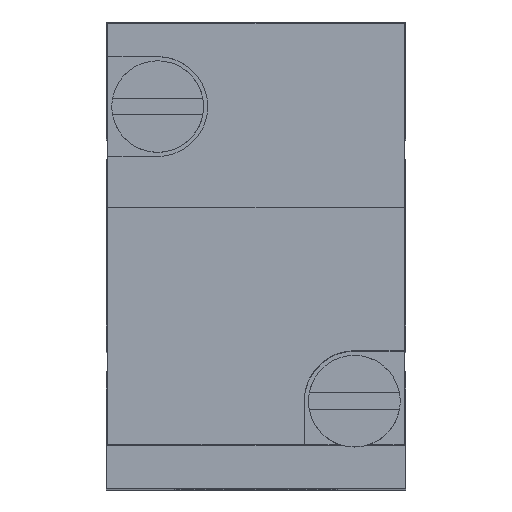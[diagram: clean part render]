
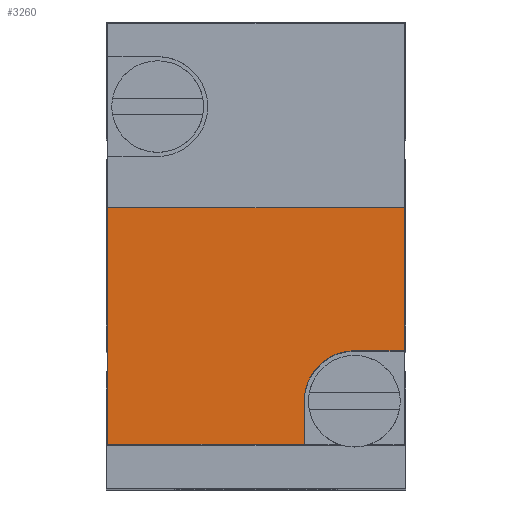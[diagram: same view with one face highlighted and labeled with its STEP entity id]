
A CAD part, top view. The second image highlights one B-rep face of the part: STEP entity #3260.
In plain terms, the highlighted planar face has unit normal (0, 0, 1).
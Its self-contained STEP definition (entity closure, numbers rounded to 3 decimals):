
#749=DIRECTION('',(0.,-1.,0.));
#750=VECTOR('',#749,8.581);
#751=CARTESIAN_POINT('',(8.9,2.8,56.5));
#752=LINE('',#751,#750);
#999=DIRECTION('',(0.,-1.,0.));
#1000=VECTOR('',#999,14.2);
#1001=CARTESIAN_POINT('',(-8.9,2.8,56.5));
#1002=LINE('',#1001,#1000);
#1023=DIRECTION('',(-1.,0.,0.));
#1024=VECTOR('',#1023,3.);
#1025=CARTESIAN_POINT('',(8.9,-5.781,56.5));
#1026=LINE('',#1025,#1024);
#1027=CARTESIAN_POINT('',(5.9,-8.781,56.5));
#1028=DIRECTION('',(0.,0.,1.));
#1029=DIRECTION('',(0.,1.,0.));
#1030=AXIS2_PLACEMENT_3D('',#1027,#1028,#1029);
#1032=DIRECTION('',(0.,1.,0.));
#1033=VECTOR('',#1032,2.619);
#1034=CARTESIAN_POINT('',(2.9,-11.4,56.5));
#1035=LINE('',#1034,#1033);
#1036=DIRECTION('',(-1.,0.,0.));
#1037=VECTOR('',#1036,17.8);
#1038=CARTESIAN_POINT('',(8.9,2.8,56.5));
#1039=LINE('',#1038,#1037);
#1056=DIRECTION('',(-1.,0.,0.));
#1057=VECTOR('',#1056,11.8);
#1058=CARTESIAN_POINT('',(2.9,-11.4,56.5));
#1059=LINE('',#1058,#1057);
#1745=CARTESIAN_POINT('',(8.9,2.8,56.5));
#1746=VERTEX_POINT('',#1745);
#1748=CARTESIAN_POINT('',(-8.9,2.8,56.5));
#1750=VERTEX_POINT('',#1748);
#1751=CARTESIAN_POINT('',(-8.9,-11.4,56.5));
#1752=VERTEX_POINT('',#1751);
#1783=CARTESIAN_POINT('',(8.9,-5.781,56.5));
#1785=VERTEX_POINT('',#1783);
#1787=CARTESIAN_POINT('',(5.9,-5.781,56.5));
#1788=VERTEX_POINT('',#1787);
#1789=CARTESIAN_POINT('',(2.9,-8.781,56.5));
#1790=VERTEX_POINT('',#1789);
#1791=CARTESIAN_POINT('',(2.9,-11.4,56.5));
#1792=VERTEX_POINT('',#1791);
#3243=CARTESIAN_POINT('',(8.9,2.8,56.5));
#3244=DIRECTION('',(0.,0.,1.));
#3245=DIRECTION('',(0.,-1.,0.));
#3246=AXIS2_PLACEMENT_3D('',#3243,#3244,#3245);
#3247=PLANE('',#3246);
#3248=ORIENTED_EDGE('',*,*,#2918,.T.);
#3250=ORIENTED_EDGE('',*,*,#3249,.T.);
#3252=ORIENTED_EDGE('',*,*,#3251,.F.);
#3254=ORIENTED_EDGE('',*,*,#3253,.T.);
#3255=ORIENTED_EDGE('',*,*,#3214,.F.);
#3256=ORIENTED_EDGE('',*,*,#3236,.F.);
#3257=ORIENTED_EDGE('',*,*,#2886,.T.);
#3258=EDGE_LOOP('',(#3248,#3250,#3252,#3254,#3255,#3256,#3257));
#3259=FACE_OUTER_BOUND('',#3258,.F.);
#3260=ADVANCED_FACE('',(#3259),#3247,.T.);
#1031=CIRCLE('',#1030,3.);
#2886=EDGE_CURVE('',#1746,#1785,#752,.T.);
#2918=EDGE_CURVE('',#1785,#1788,#1026,.T.);
#3214=EDGE_CURVE('',#1750,#1752,#1002,.T.);
#3236=EDGE_CURVE('',#1746,#1750,#1039,.T.);
#3249=EDGE_CURVE('',#1788,#1790,#1031,.T.);
#3251=EDGE_CURVE('',#1792,#1790,#1035,.T.);
#3253=EDGE_CURVE('',#1792,#1752,#1059,.T.);
